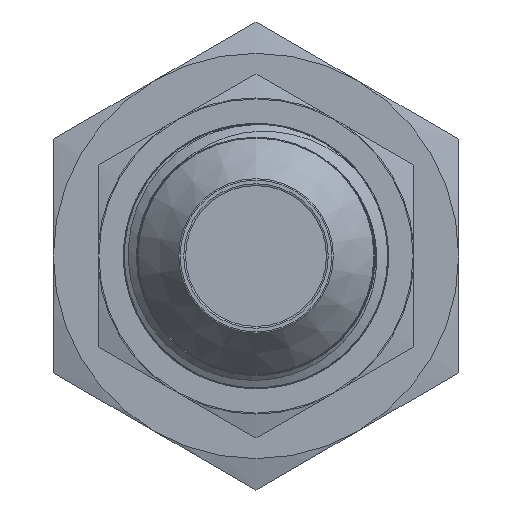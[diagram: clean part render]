
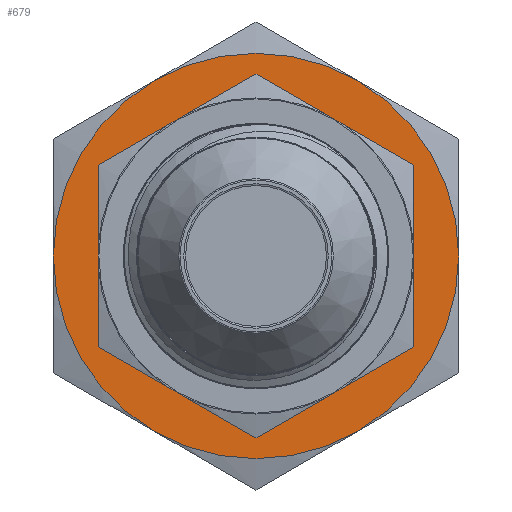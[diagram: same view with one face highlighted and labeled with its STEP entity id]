
A CAD part, left-side view. The second image highlights one B-rep face of the part: STEP entity #679.
In plain terms, the highlighted planar face has unit normal (-1, 0, 0).
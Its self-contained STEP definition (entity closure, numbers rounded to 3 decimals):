
#679 = ADVANCED_FACE( '', ( #1678, #1679 ), #1680, .T. );
#1678 = FACE_BOUND( '', #5067, .T. );
#1679 = FACE_OUTER_BOUND( '', #5068, .T. );
#1680 = PLANE( '', #5069 );
#5067 = EDGE_LOOP( '', ( #15713 ) );
#5068 = EDGE_LOOP( '', ( #15714, #15715, #15716, #15717, #15718, #15719 ) );
#5069 = AXIS2_PLACEMENT_3D( '', #15720, #15721, #15722 );
#15713 = ORIENTED_EDGE( '', *, *, #18520, .F. );
#15714 = ORIENTED_EDGE( '', *, *, #18425, .T. );
#15715 = ORIENTED_EDGE( '', *, *, #18521, .T. );
#15716 = ORIENTED_EDGE( '', *, *, #18522, .T. );
#15717 = ORIENTED_EDGE( '', *, *, #18523, .F. );
#15718 = ORIENTED_EDGE( '', *, *, #18524, .T. );
#15719 = ORIENTED_EDGE( '', *, *, #18525, .T. );
#15720 = CARTESIAN_POINT( '', ( 26.467, 14.459, -14.459 ) );
#15721 = DIRECTION( '', ( -1., 0., 0. ) );
#15722 = DIRECTION( '', ( 0., -1., 0. ) );
#18425 = EDGE_CURVE( '', #19987, #19608, #19988, .T. );
#18520 = EDGE_CURVE( '', #20126, #20126, #20127, .F. );
#18521 = EDGE_CURVE( '', #19608, #20128, #20129, .T. );
#18522 = EDGE_CURVE( '', #20128, #19188, #20130, .T. );
#18523 = EDGE_CURVE( '', #19670, #19188, #20131, .F. );
#18524 = EDGE_CURVE( '', #19670, #19382, #20132, .T. );
#18525 = EDGE_CURVE( '', #19382, #19987, #20133, .T. );
#19188 = VERTEX_POINT( '', #21011 );
#19382 = VERTEX_POINT( '', #21379 );
#19608 = VERTEX_POINT( '', #22237 );
#19670 = VERTEX_POINT( '', #22359 );
#19987 = VERTEX_POINT( '', #23609 );
#19988 = CIRCLE( '', #23610, 14.288 );
#20126 = VERTEX_POINT( '', #24297 );
#20127 = CIRCLE( '', #24298, 11.079 );
#20128 = VERTEX_POINT( '', #24299 );
#20129 = CIRCLE( '', #24300, 14.288 );
#20130 = CIRCLE( '', #24301, 14.288 );
#20131 = CIRCLE( '', #24302, 14.288 );
#20132 = CIRCLE( '', #24303, 14.288 );
#20133 = CIRCLE( '', #24304, 14.287 );
#21011 = CARTESIAN_POINT( '', ( 26.467, -7.144, 12.373 ) );
#21379 = CARTESIAN_POINT( '', ( 26.467, 14.287, 0. ) );
#22237 = CARTESIAN_POINT( '', ( 26.467, -7.144, -12.373 ) );
#22359 = CARTESIAN_POINT( '', ( 26.467, 7.144, 12.373 ) );
#23609 = CARTESIAN_POINT( '', ( 26.467, 7.144, -12.373 ) );
#23610 = AXIS2_PLACEMENT_3D( '', #29083, #29084, #29085 );
#24297 = CARTESIAN_POINT( '', ( 26.467, 11.079, 0. ) );
#24298 = AXIS2_PLACEMENT_3D( '', #29140, #29141, #29142 );
#24299 = CARTESIAN_POINT( '', ( 26.467, -14.288, 0. ) );
#24300 = AXIS2_PLACEMENT_3D( '', #29143, #29144, #29145 );
#24301 = AXIS2_PLACEMENT_3D( '', #29146, #29147, #29148 );
#24302 = AXIS2_PLACEMENT_3D( '', #29149, #29150, #29151 );
#24303 = AXIS2_PLACEMENT_3D( '', #29152, #29153, #29154 );
#24304 = AXIS2_PLACEMENT_3D( '', #29155, #29156, #29157 );
#29083 = CARTESIAN_POINT( '', ( 26.467, 0., 0. ) );
#29084 = DIRECTION( '', ( -1., 0., 0. ) );
#29085 = DIRECTION( '', ( 0., 0., -1. ) );
#29140 = CARTESIAN_POINT( '', ( 26.467, 0., 0. ) );
#29141 = DIRECTION( '', ( 1., 0., 0. ) );
#29142 = DIRECTION( '', ( 0., 1., 0. ) );
#29143 = CARTESIAN_POINT( '', ( 26.467, 0., 0. ) );
#29144 = DIRECTION( '', ( -1., 0., 0. ) );
#29145 = DIRECTION( '', ( 0., 0., -1. ) );
#29146 = CARTESIAN_POINT( '', ( 26.467, 0., 0. ) );
#29147 = DIRECTION( '', ( -1., 0., 0. ) );
#29148 = DIRECTION( '', ( 0., 0., -1. ) );
#29149 = CARTESIAN_POINT( '', ( 26.467, 0., 0. ) );
#29150 = DIRECTION( '', ( -1., 0., 0. ) );
#29151 = DIRECTION( '', ( 0., 0., -1. ) );
#29152 = CARTESIAN_POINT( '', ( 26.467, 0., 0. ) );
#29153 = DIRECTION( '', ( -1., 0., 0. ) );
#29154 = DIRECTION( '', ( 0., 0., -1. ) );
#29155 = CARTESIAN_POINT( '', ( 26.467, 0., 0. ) );
#29156 = DIRECTION( '', ( -1., 0., 0. ) );
#29157 = DIRECTION( '', ( 0., 0., -1. ) );
